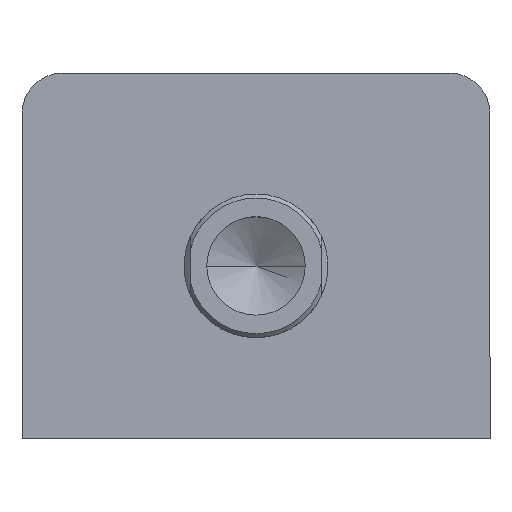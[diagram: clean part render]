
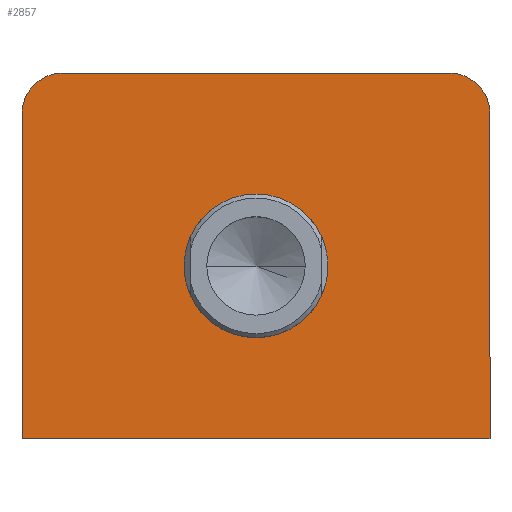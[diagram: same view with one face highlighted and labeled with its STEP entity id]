
A CAD part, top view. The second image highlights one B-rep face of the part: STEP entity #2857.
In plain terms, the highlighted planar face has unit normal (0, 0, 1).
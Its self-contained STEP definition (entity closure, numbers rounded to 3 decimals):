
#277 = CIRCLE ( 'NONE', #2355, 10. ) ;
#287 = CIRCLE ( 'NONE', #2363, 10. ) ;
#292 = LINE ( 'NONE', #2939, #301 ) ;
#301 = VECTOR ( 'NONE', #2950, 1000. ) ;
#314 = LINE ( 'NONE', #2968, #317 ) ;
#317 = VECTOR ( 'NONE', #2969, 1000. ) ;
#397 = FACE_BOUND ( 'NONE', #1977, .T. ) ;
#405 = FACE_OUTER_BOUND ( 'NONE', #1262, .T. ) ;
#635 = CARTESIAN_POINT ( 'NONE',  ( 17.5, -2.5, 87. ) ) ;
#647 = CARTESIAN_POINT ( 'NONE',  ( -17.5, -2.5, 87. ) ) ;
#860 = VERTEX_POINT ( 'NONE', #2743 ) ;
#864 = VERTEX_POINT ( 'NONE', #2747 ) ;
#1092 = VERTEX_POINT ( 'NONE', #1370 ) ;
#1118 = VERTEX_POINT ( 'NONE', #1390 ) ;
#1119 = VERTEX_POINT ( 'NONE', #1443 ) ;
#1124 = VERTEX_POINT ( 'NONE', #1447 ) ;
#1262 = EDGE_LOOP ( 'NONE', ( #1601, #1602, #1603, #1604, #1605, #1487 ) ) ;
#1370 = CARTESIAN_POINT ( 'NONE',  ( 47., 44.5, 87. ) ) ;
#1390 = CARTESIAN_POINT ( 'NONE',  ( 57., -44.5, 87. ) ) ;
#1443 = CARTESIAN_POINT ( 'NONE',  ( -57., 34.5, 87. ) ) ;
#1447 = CARTESIAN_POINT ( 'NONE',  ( -57., -44.5, 87. ) ) ;
#1487 = ORIENTED_EDGE ( 'NONE', *, *, #2149, .T. ) ;
#1599 = ORIENTED_EDGE ( 'NONE', *, *, #2109, .F. ) ;
#1600 = ORIENTED_EDGE ( 'NONE', *, *, #2107, .F. ) ;
#1601 = ORIENTED_EDGE ( 'NONE', *, *, #2136, .T. ) ;
#1602 = ORIENTED_EDGE ( 'NONE', *, *, #2159, .T. ) ;
#1603 = ORIENTED_EDGE ( 'NONE', *, *, #2166, .T. ) ;
#1604 = ORIENTED_EDGE ( 'NONE', *, *, #2175, .T. ) ;
#1605 = ORIENTED_EDGE ( 'NONE', *, *, #2116, .T. ) ;
#1695 = CARTESIAN_POINT ( 'NONE',  ( 0., -2.5, 87. ) ) ;
#1696 = DIRECTION ( 'NONE',  ( 0., 0., 1. ) ) ;
#1697 = DIRECTION ( 'NONE',  ( 1., 0., 0. ) ) ;
#1700 = CARTESIAN_POINT ( 'NONE',  ( 0., -2.5, 87. ) ) ;
#1701 = DIRECTION ( 'NONE',  ( 0., 0., 1. ) ) ;
#1702 = DIRECTION ( 'NONE',  ( 1., 0., 0. ) ) ;
#1713 = CARTESIAN_POINT ( 'NONE',  ( 57., 44.5, 87. ) ) ;
#1714 = DIRECTION ( 'NONE',  ( 0., 1., 0. ) ) ;
#1756 = CARTESIAN_POINT ( 'NONE',  ( -57., 44.5, 87. ) ) ;
#1757 = DIRECTION ( 'NONE',  ( -1., 0., 0. ) ) ;
#1950 = VERTEX_POINT ( 'NONE', #635 ) ;
#1959 = VERTEX_POINT ( 'NONE', #647 ) ;
#1977 = EDGE_LOOP ( 'NONE', ( #1599, #1600 ) ) ;
#2107 = EDGE_CURVE ( 'NONE', #1959, #1950, #3060, .T. ) ;
#2109 = EDGE_CURVE ( 'NONE', #1950, #1959, #3063, .T. ) ;
#2116 = EDGE_CURVE ( 'NONE', #1118, #864, #3076, .T. ) ;
#2136 = EDGE_CURVE ( 'NONE', #1092, #860, #3113, .T. ) ;
#2149 = EDGE_CURVE ( 'NONE', #864, #1092, #277, .T. ) ;
#2159 = EDGE_CURVE ( 'NONE', #860, #1119, #287, .T. ) ;
#2166 = EDGE_CURVE ( 'NONE', #1119, #1124, #292, .T. ) ;
#2175 = EDGE_CURVE ( 'NONE', #1124, #1118, #314, .T. ) ;
#2342 = AXIS2_PLACEMENT_3D ( 'NONE', #1695, #1696, #1697 ) ;
#2343 = AXIS2_PLACEMENT_3D ( 'NONE', #1700, #1701, #1702 ) ;
#2355 = AXIS2_PLACEMENT_3D ( 'NONE', #2903, #2904, #2905 ) ;
#2363 = AXIS2_PLACEMENT_3D ( 'NONE', #2931, #2932, #2933 ) ;
#2403 = AXIS2_PLACEMENT_3D ( 'NONE', #3138, #3143, #3144 ) ;
#2743 = CARTESIAN_POINT ( 'NONE',  ( -47., 44.5, 87. ) ) ;
#2747 = CARTESIAN_POINT ( 'NONE',  ( 57., 34.5, 87. ) ) ;
#2857 = ADVANCED_FACE ( 'NONE', ( #397, #405 ), #3141, .T. ) ;
#2903 = CARTESIAN_POINT ( 'NONE',  ( 47., 34.5, 87. ) ) ;
#2904 = DIRECTION ( 'NONE',  ( 0., 0., 1. ) ) ;
#2905 = DIRECTION ( 'NONE',  ( 1., 0., 0. ) ) ;
#2931 = CARTESIAN_POINT ( 'NONE',  ( -47., 34.5, 87. ) ) ;
#2932 = DIRECTION ( 'NONE',  ( 0., 0., 1. ) ) ;
#2933 = DIRECTION ( 'NONE',  ( 1., 0., 0. ) ) ;
#2939 = CARTESIAN_POINT ( 'NONE',  ( -57., 44.5, 87. ) ) ;
#2950 = DIRECTION ( 'NONE',  ( 0., -1., 0. ) ) ;
#2968 = CARTESIAN_POINT ( 'NONE',  ( -57., -44.5, 87. ) ) ;
#2969 = DIRECTION ( 'NONE',  ( 1., 0., 0. ) ) ;
#3060 = CIRCLE ( 'NONE', #2342, 17.5 ) ;
#3063 = CIRCLE ( 'NONE', #2343, 17.5 ) ;
#3076 = LINE ( 'NONE', #1713, #3079 ) ;
#3079 = VECTOR ( 'NONE', #1714, 1000. ) ;
#3113 = LINE ( 'NONE', #1756, #3116 ) ;
#3116 = VECTOR ( 'NONE', #1757, 1000. ) ;
#3138 = CARTESIAN_POINT ( 'NONE',  ( 0., 0., 87. ) ) ;
#3141 = PLANE ( 'NONE',  #2403 ) ;
#3143 = DIRECTION ( 'NONE',  ( 0., 0., 1. ) ) ;
#3144 = DIRECTION ( 'NONE',  ( 1., 0., 0. ) ) ;
